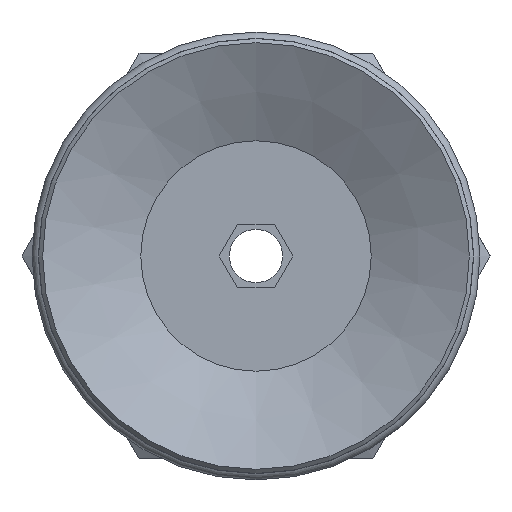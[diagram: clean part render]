
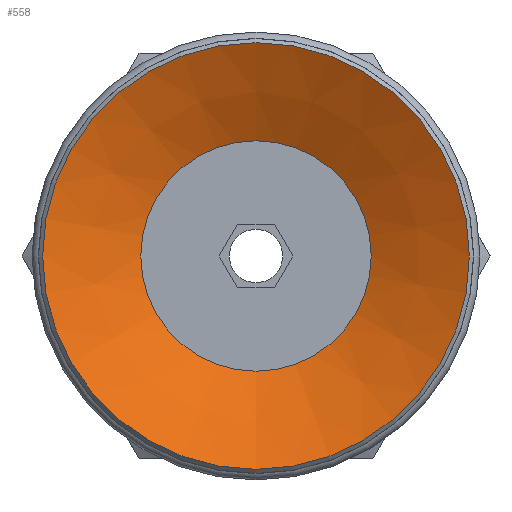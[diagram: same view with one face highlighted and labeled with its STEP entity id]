
A CAD part, front view. The second image highlights one B-rep face of the part: STEP entity #558.
In plain terms, the highlighted conical face has half-angle 63 degrees and reference radius 5.4 mm.
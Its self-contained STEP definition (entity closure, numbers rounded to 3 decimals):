
#558=ADVANCED_FACE('',(#816,#817),#818,.F.);
#816=FACE_BOUND('',#1075,.T.);
#817=FACE_OUTER_BOUND('',#1076,.T.);
#818=CONICAL_SURFACE('',#1077,5.4,1.1);
#1075=EDGE_LOOP('',(#1753));
#1076=EDGE_LOOP('',(#1754));
#1077=AXIS2_PLACEMENT_3D('',#1755,#1756,#1757);
#1753=ORIENTED_EDGE('',*,*,#1935,.F.);
#1754=ORIENTED_EDGE('',*,*,#1941,.T.);
#1755=CARTESIAN_POINT('',(0.0,5.518,0.0));
#1756=DIRECTION('',(-0.0,-1.0,0.));
#1757=DIRECTION('',(0.0,0.,-1.0));
#1935=EDGE_CURVE('',#2242,#2242,#2243,.T.);
#1941=EDGE_CURVE('',#2254,#2254,#2255,.T.);
#2242=VERTEX_POINT('',#2946);
#2243=CIRCLE('',#2947,5.4);
#2254=VERTEX_POINT('',#2958);
#2255=CIRCLE('',#2959,10.0);
#2946=CARTESIAN_POINT('',(0.0,5.518,-5.4));
#2947=AXIS2_PLACEMENT_3D('',#3239,#3240,#3241);
#2958=CARTESIAN_POINT('',(0.0,3.175,-10.0));
#2959=AXIS2_PLACEMENT_3D('',#3257,#3258,#3259);
#3239=CARTESIAN_POINT('',(0.0,5.518,0.0));
#3240=DIRECTION('',(0.0,-1.0,0.));
#3241=DIRECTION('',(0.0,0.,-1.0));
#3257=CARTESIAN_POINT('',(0.0,3.175,0.0));
#3258=DIRECTION('',(0.0,-1.0,0.));
#3259=DIRECTION('',(0.0,0.,-1.0));
